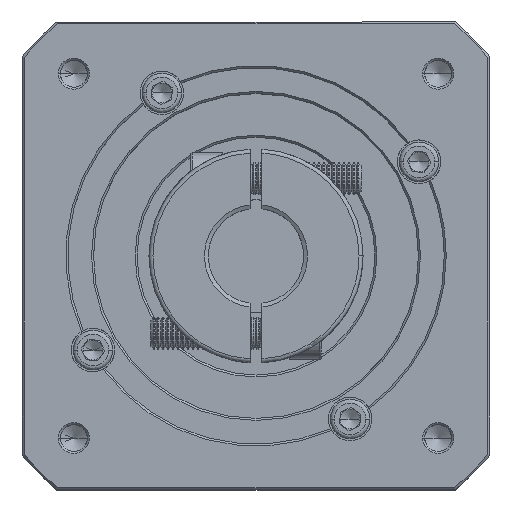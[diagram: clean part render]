
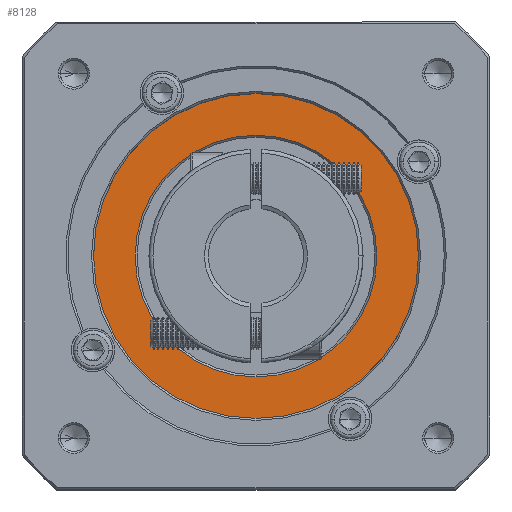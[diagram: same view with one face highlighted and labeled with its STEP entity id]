
A CAD part, top view. The second image highlights one B-rep face of the part: STEP entity #8128.
In plain terms, the highlighted planar face has unit normal (0, 0, 1).
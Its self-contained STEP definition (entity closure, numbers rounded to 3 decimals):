
#1700 = EDGE_LOOP ( 'NONE', ( #72265, #118694 ) ) ;
#2664 = DIRECTION ( 'NONE',  ( 1., 0., 0. ) ) ;
#8128 = ADVANCED_FACE ( 'NONE', ( #36145, #11051 ), #21289, .T. ) ;
#11051 = FACE_BOUND ( 'NONE', #1700, .T. ) ;
#16073 = DIRECTION ( 'NONE',  ( 0., 0., -1. ) ) ;
#18904 = ORIENTED_EDGE ( 'NONE', *, *, #64640, .T. ) ;
#21289 = PLANE ( 'NONE',  #112634 ) ;
#31695 = EDGE_CURVE ( 'NONE', #116862, #97021, #111890, .T. ) ;
#32544 = AXIS2_PLACEMENT_3D ( 'NONE', #55002, #121239, #64498 ) ;
#36145 = FACE_OUTER_BOUND ( 'NONE', #41477, .T. ) ;
#39198 = DIRECTION ( 'NONE',  ( 0., 0., -1. ) ) ;
#41477 = EDGE_LOOP ( 'NONE', ( #18904, #84717 ) ) ;
#43685 = VERTEX_POINT ( 'NONE', #49543 ) ;
#45653 = EDGE_CURVE ( 'NONE', #97021, #116862, #79465, .T. ) ;
#47113 = AXIS2_PLACEMENT_3D ( 'NONE', #95980, #39198, #105477 ) ;
#49543 = CARTESIAN_POINT ( 'NONE',  ( 110.096, 90.323, 36.003 ) ) ;
#51023 = DIRECTION ( 'NONE',  ( 0., 0., 1. ) ) ;
#51053 = CARTESIAN_POINT ( 'NONE',  ( 28.096, 90.323, 36.003 ) ) ;
#53662 = CARTESIAN_POINT ( 'NONE',  ( 69.096, 120.823, 36.003 ) ) ;
#55002 = CARTESIAN_POINT ( 'NONE',  ( 69.096, 90.323, 36.003 ) ) ;
#59230 = DIRECTION ( 'NONE',  ( 0., 0., 1. ) ) ;
#59941 = EDGE_CURVE ( 'NONE', #64307, #43685, #75936, .T. ) ;
#64307 = VERTEX_POINT ( 'NONE', #51053 ) ;
#64498 = DIRECTION ( 'NONE',  ( 1., 0., 0. ) ) ;
#64604 = CARTESIAN_POINT ( 'NONE',  ( 69.096, 59.823, 36.003 ) ) ;
#64640 = EDGE_CURVE ( 'NONE', #43685, #64307, #98366, .T. ) ;
#72265 = ORIENTED_EDGE ( 'NONE', *, *, #31695, .T. ) ;
#72672 = CARTESIAN_POINT ( 'NONE',  ( 69.096, 90.323, 36.003 ) ) ;
#75936 = CIRCLE ( 'NONE', #32544, 41. ) ;
#79465 = CIRCLE ( 'NONE', #113572, 30.5 ) ;
#82214 = DIRECTION ( 'NONE',  ( 0., -1., 0. ) ) ;
#84717 = ORIENTED_EDGE ( 'NONE', *, *, #59941, .T. ) ;
#95980 = CARTESIAN_POINT ( 'NONE',  ( 69.096, 90.323, 36.003 ) ) ;
#97021 = VERTEX_POINT ( 'NONE', #53662 ) ;
#98366 = CIRCLE ( 'NONE', #106232, 41. ) ;
#105477 = DIRECTION ( 'NONE',  ( 0., -1., 0. ) ) ;
#106232 = AXIS2_PLACEMENT_3D ( 'NONE', #107759, #51023, #117233 ) ;
#107759 = CARTESIAN_POINT ( 'NONE',  ( 69.096, 90.323, 36.003 ) ) ;
#111890 = CIRCLE ( 'NONE', #47113, 30.5 ) ;
#112634 = AXIS2_PLACEMENT_3D ( 'NONE', #116011, #59230, #2664 ) ;
#113572 = AXIS2_PLACEMENT_3D ( 'NONE', #72672, #16073, #82214 ) ;
#116011 = CARTESIAN_POINT ( 'NONE',  ( 69.096, 90.323, 36.003 ) ) ;
#116862 = VERTEX_POINT ( 'NONE', #64604 ) ;
#117233 = DIRECTION ( 'NONE',  ( 1., 0., 0. ) ) ;
#118694 = ORIENTED_EDGE ( 'NONE', *, *, #45653, .T. ) ;
#121239 = DIRECTION ( 'NONE',  ( 0., 0., 1. ) ) ;
